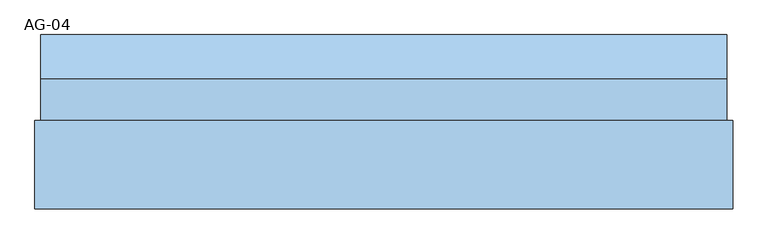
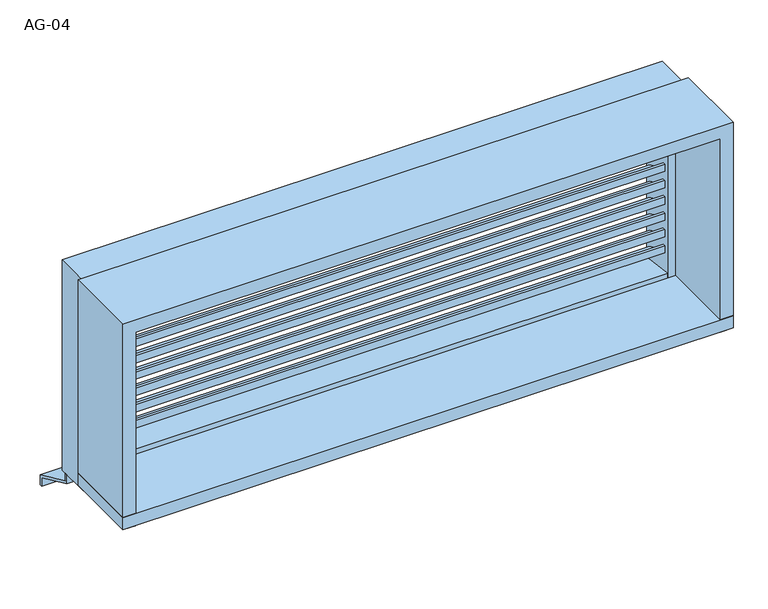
"""IFC4 building model written with IfcOpenShell, lengths in millimetres: window geometry, 営_単窓_ガラリ : AG-04."""

from ifc_helpers import new_model, si_unit, frame, origin, place, context, project, spatial, polyline, outline, extrude, source, transform, mapped, element, save


def ag_04_25b0d088(model_context):
    return source(origin(), model_context, "Body", "SweptSolid", [
        extrude(outline(polyline([(15.0, 1484.9160321), (15.0, 1466.6666667), (10.0, 1466.6666667), (10.0, 1481.6666667), (-35.0, 1501.6666667), (-35.0, 1516.6666667), (-30.0, 1516.6666667), (-30.0, 1504.9160321), (15.0, 1484.9160321)])), frame((-550.0, 0.0, 0.0), z_axis=(1.0, 0.0, 0.0), x_axis=(0.0, 1.0, 0.0)), (0.0, 0.0, 1.0), 1100.0),
        extrude(outline(polyline([(15.0, 1451.5826988), (15.0, 1433.3333333), (10.0, 1433.3333333), (10.0, 1448.3333333), (-35.0, 1468.3333333), (-35.0, 1483.3333333), (-30.0, 1483.3333333), (-30.0, 1471.5826988), (15.0, 1451.5826988)])), frame((-550.0, 0.0, 0.0), z_axis=(1.0, 0.0, 0.0), x_axis=(0.0, 1.0, 0.0)), (0.0, 0.0, 1.0), 1100.0),
        extrude(outline(polyline([(15.0, 1418.2493654), (15.0, 1400.0), (10.0, 1400.0), (10.0, 1415.0), (-35.0, 1435.0), (-35.0, 1450.0), (-30.0, 1450.0), (-30.0, 1438.2493654), (15.0, 1418.2493654)])), frame((-550.0, 0.0, 0.0), z_axis=(1.0, 0.0, 0.0), x_axis=(0.0, 1.0, 0.0)), (0.0, 0.0, 1.0), 1100.0),
        extrude(outline(polyline([(15.0, 1384.9160321), (15.0, 1366.6666667), (10.0, 1366.6666667), (10.0, 1381.6666667), (-35.0, 1401.6666667), (-35.0, 1416.6666667), (-30.0, 1416.6666667), (-30.0, 1404.9160321), (15.0, 1384.9160321)])), frame((-550.0, 0.0, 0.0), z_axis=(1.0, 0.0, 0.0), x_axis=(0.0, 1.0, 0.0)), (0.0, 0.0, 1.0), 1100.0),
        extrude(outline(polyline([(15.0, 1351.5826988), (15.0, 1333.3333333), (10.0, 1333.3333333), (10.0, 1348.3333333), (-35.0, 1368.3333333), (-35.0, 1383.3333333), (-30.0, 1383.3333333), (-30.0, 1371.5826988), (15.0, 1351.5826988)])), frame((-550.0, 0.0, 0.0), z_axis=(1.0, 0.0, 0.0), x_axis=(0.0, 1.0, 0.0)), (0.0, 0.0, 1.0), 1100.0),
        extrude(outline(polyline([(15.0, 1318.2493654), (15.0, 1300.0), (10.0, 1300.0), (10.0, 1315.0), (-35.0, 1335.0), (-35.0, 1350.0), (-30.0, 1350.0), (-30.0, 1338.2493654), (15.0, 1318.2493654)])), frame((-550.0, 0.0, 0.0), z_axis=(1.0, 0.0, 0.0), x_axis=(0.0, 1.0, 0.0)), (0.0, 0.0, 1.0), 1100.0),
        extrude(outline(polyline([(15.0, 1284.9160321), (15.0, 1266.6666667), (10.0, 1266.6666667), (10.0, 1281.6666667), (-35.0, 1301.6666667), (-35.0, 1316.6666667), (-30.0, 1316.6666667), (-30.0, 1304.9160321), (15.0, 1284.9160321)])), frame((-550.0, 0.0, 0.0), z_axis=(1.0, 0.0, 0.0), x_axis=(0.0, 1.0, 0.0)), (0.0, 0.0, 1.0), 1100.0),
        extrude(outline(polyline([(15.0, 1251.5826988), (15.0, 1233.3333333), (10.0, 1233.3333333), (10.0, 1248.3333333), (-35.0, 1268.3333333), (-35.0, 1283.3333333), (-30.0, 1283.3333333), (-30.0, 1271.5826988), (15.0, 1251.5826988)])), frame((-550.0, 0.0, 0.0), z_axis=(1.0, 0.0, 0.0), x_axis=(0.0, 1.0, 0.0)), (0.0, 0.0, 1.0), 1100.0),
        extrude(outline(polyline([(15.0, 1518.2493654), (15.0, 1500.0), (10.0, 1500.0), (10.0, 1515.0), (-35.0, 1535.0), (-35.0, 1550.0), (-30.0, 1550.0), (-30.0, 1538.2493654), (15.0, 1518.2493654)])), frame((-550.0, 0.0, 0.0), z_axis=(1.0, 0.0, 0.0), x_axis=(0.0, 1.0, 0.0)), (0.0, 0.0, 1.0), 1100.0),
        extrude(outline(polyline([(15.0, 1218.2493654), (15.0, 1200.0), (10.0, 1200.0), (10.0, 1215.0), (-35.0, 1235.0), (-35.0, 1250.0), (-30.0, 1250.0), (-30.0, 1238.2493654), (15.0, 1218.2493654)])), frame((-550.0, 0.0, 0.0), z_axis=(1.0, 0.0, 0.0), x_axis=(0.0, 1.0, 0.0)), (0.0, 0.0, 1.0), 1100.0),
        extrude(outline(polyline([(590.0, -195.0), (-590.0, -195.0), (-590.0, -45.0), (590.0, -45.0), (590.0, -195.0)])), frame((0.0, 0.0, 1165.0), z_axis=(0.0, 0.0, 1.0), x_axis=(1.0, 0.0, 0.0)), (0.0, 0.0, 1.0), 25.0),
        extrude(outline(polyline([(15.0, 1135.0), (100.0, 1095.0), (100.0, 1075.0), (95.0014518, 1075.0), (95.0014518, 1091.8262891), (10.0, 1131.8269723), (10.0, 1150.0), (15.0, 1150.0), (15.0, 1135.0)])), frame((-580.0, 0.0, 0.0), z_axis=(1.0, 0.0, 0.0), x_axis=(0.0, 1.0, 0.0)), (0.0, 0.0, 1.0), 1160.0),
        extrude(outline(polyline([(1165.0, -590.0), (1165.0, -565.0), (1560.0, -565.0), (1560.0, 565.0), (1165.0, 565.0), (1165.0, 590.0), (1585.0, 590.0), (1585.0, -590.0), (1165.0, -590.0)])), frame((0.0, -195.0, 0.0), z_axis=(0.0, 1.0, 0.0), x_axis=(0.0, 0.0, 1.0)), (0.0, 0.0, 1.0), 150.0),
        extrude(outline(polyline([(1150.0, -580.0), (1150.0, -550.0), (1550.0, -550.0), (1550.0, 550.0), (1150.0, 550.0), (1150.0, 580.0), (1580.0, 580.0), (1580.0, -580.0), (1150.0, -580.0)])), frame((0.0, -45.0, 0.0), z_axis=(0.0, 1.0, 0.0), x_axis=(0.0, 0.0, 1.0)), (0.0, 0.0, 1.0), 70.0),
        extrude(outline(polyline([(-45.0, 1150.0), (-45.0, 1200.0), (25.0, 1190.6666667), (25.0, 1150.0), (-45.0, 1150.0)])), frame((-550.0, 0.0, 0.0), z_axis=(1.0, 0.0, 0.0), x_axis=(0.0, 1.0, 0.0)), (0.0, 0.0, 1.0), 1100.0),
    ])


if __name__ == "__main__":
    model = new_model("IFC4")
    model_context = context("Model", 3, world=origin())
    ifc_project = project(units=[si_unit("LENGTHUNIT", "METRE", prefix="MILLI")], contexts=[model_context])
    site = spatial("IfcSite", under=ifc_project)
    building = spatial("IfcBuilding", under=site)
    placement = place(None, origin())
    ag_04_shape = ag_04_25b0d088(model_context)
    element("IfcWindow", 1, ObjectType="営_単窓_ガラリ : AG-04", at=placement, inside=building, context=model_context, shape_type="MappedRepresentation", body=[
        mapped(ag_04_shape, transform((0.0, 0.0, 0.0), x_axis=(1.0, 0.0, 0.0), y_axis=(0.0, 1.0, 0.0), z_axis=(0.0, 0.0, 1.0))),
    ])
    save(model, "model.ifc")
